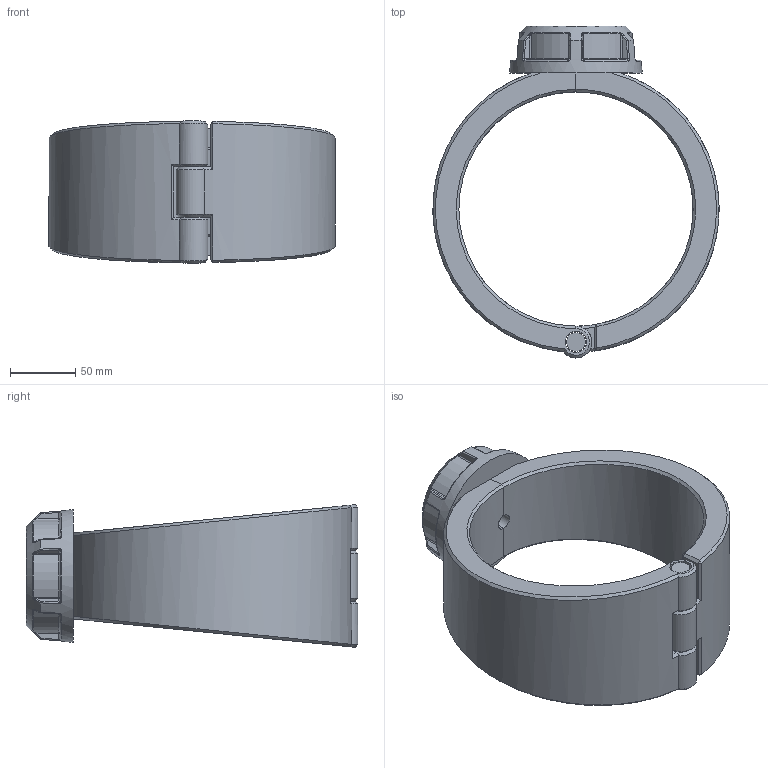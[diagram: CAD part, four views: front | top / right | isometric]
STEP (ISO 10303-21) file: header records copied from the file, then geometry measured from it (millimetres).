
FILE_DESCRIPTION(/* description */ ('Plassadle Threaded 180x3/4'''''),/* implementation_level */ '2;1');
FILE_NAME(/* name */ 'C:\Users\comp2\Dropbox\99-16-3568-Processing\Mechanical Fittings\16300\stp\163000180007.stp',/* time_stamp */ '2022-02-03T11:52:31+00:00',/* author */ ('comp2'),/* organization */ (''),/* preprocessor_version */ 'ST-DEVELOPER v17.2',/* originating_system */ 'Autodesk Inventor 2019',/* authorisation */ '');
FILE_SCHEMA (('AUTOMOTIVE_DESIGN { 1 0 10303 214 3 1 1 }'));
Length unit declared in the file: millimetre
Products named in the file (1): 163000180007
Bounding box: 219.93 x 255 x 109.6 mm (x, y, z)
Volume: 1284127.9 mm3; surface area: 175840.2 mm2
Topology: 4 solids, 4 shells, 203 faces, 486 edges, 293 vertices
Faces by surface type: bspline 58, plane 53, cylinder 47, torus 18, cone 15, sphere 12
Full cylindrical faces by diameter (mm): 12.059 x1, 14.4 x1, 16.4 x3, 20.499 x1, 24.117 x1, 36.175 x1
Entity records: 8256 total; most frequent: CARTESIAN_POINT 3909, ORIENTED_EDGE 972, DIRECTION 781, EDGE_CURVE 486, AXIS2_PLACEMENT_3D 330, VERTEX_POINT 293, EDGE_LOOP 213, FACE_OUTER_BOUND 203
